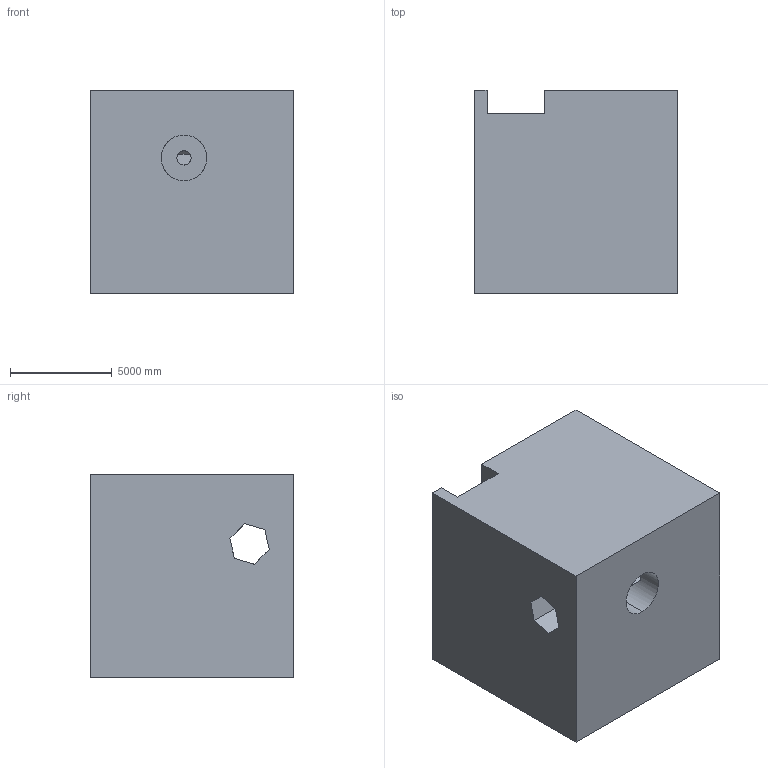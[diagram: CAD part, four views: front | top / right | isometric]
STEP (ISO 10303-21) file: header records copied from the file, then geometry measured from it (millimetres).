
FILE_DESCRIPTION (( 'STEP AP203' ), '1' );
FILE_NAME ('295.STEP', '2022-09-07T15:14:13', ( 'user' ), ( '' ), 'SwSTEP 2.0', 'SolidWorks 2021', '' );
FILE_SCHEMA (( 'CONFIG_CONTROL_DESIGN' ));
Length unit declared in the file: centimetre
Products named in the file (1): 295
Bounding box: 10000 x 10000 x 10000 mm (x, y, z)
Volume: 891724924803.5 mm3; surface area: 776552228.2 mm2
Topology: 1 solids, 1 shells, 40 faces, 105 edges, 70 vertices
Faces by surface type: plane 36, cylinder 4
Entity records: 1300 total; most frequent: CARTESIAN_POINT 264, ORIENTED_EDGE 210, DIRECTION 177, EDGE_CURVE 105, LINE 83, VECTOR 83, VERTEX_POINT 70, AXIS2_PLACEMENT_3D 47
